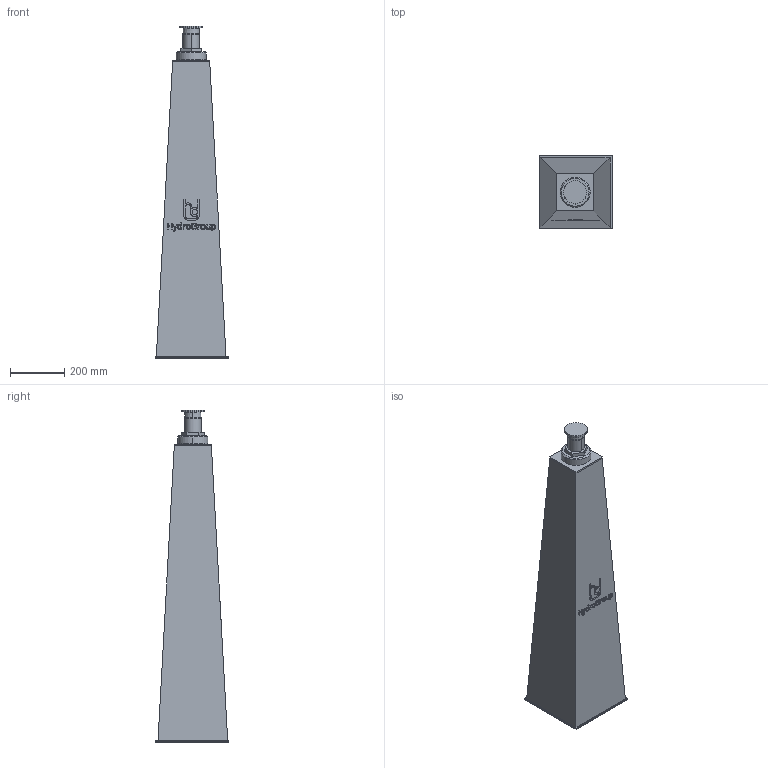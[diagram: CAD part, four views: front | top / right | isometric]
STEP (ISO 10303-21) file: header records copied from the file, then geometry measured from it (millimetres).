
FILE_DESCRIPTION(('STEP AP214'),'1');
FILE_NAME('RSRFE-IV-09-V1.stp','2018-06-29T11:15:47',(' '),(' '),'Spatial InterOp 3D',' ',' ');
FILE_SCHEMA(('automotive_design'));
Length unit declared in the file: millimetre
Products named in the file (6): 1; 2; 3; 4; 5; 6
Bounding box: 270 x 270 x 1219 mm (x, y, z)
Volume: 44534304 mm3; surface area: 1219912.8 mm2
Topology: 6 solids, 6 shells, 216 faces, 530 edges, 345 vertices
Faces by surface type: plane 135, cylinder 33, extrusion 24, cone 20, torus 4
Entity records: 8704 total; most frequent: CARTESIAN_POINT 1771, ORIENTED_EDGE 1060, DIRECTION 987, EDGE_CURVE 530, VECTOR 397, LINE 373, VERTEX_POINT 345, AXIS2_PLACEMENT_3D 295
